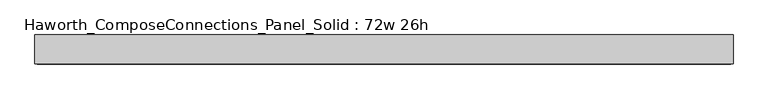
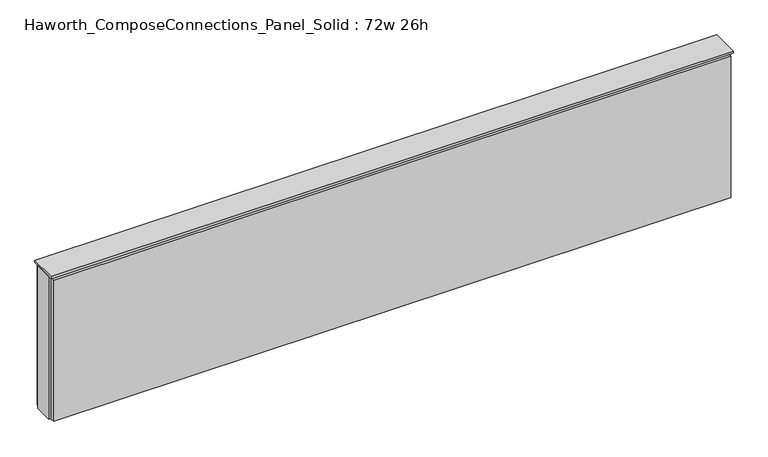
"""IFC4 building model written with IfcOpenShell, lengths in millimetres: furniture geometry, Haworth_ComposeConnections_Panel_Solid : 72w 26h."""

from ifc_helpers import new_model, si_unit, frame, origin, place, context, project, spatial, polyline, outline, extrude, source, transform, mapped, element, save


def haworth_composeconnections_panel_solid_72w_26h_88b36853(model_context):
    return source(origin(), model_context, "Body", "SweptSolid", [
        extrude(outline(polyline([(916.8402902, 25.4), (916.8402902, -25.4), (-911.9597098, -25.4), (-911.9597098, 25.4), (916.8402902, 25.4)])), frame((0.0, 0.0, 234.95), z_axis=(0.0, 0.0, 1.0), x_axis=(1.0, 0.0, 0.0)), (0.0, 0.0, 1.0), 406.4),
        extrude(outline(polyline([(-905.6097098, 25.4), (-905.6097098, 38.1), (910.4902902, 38.1), (910.4902902, 25.4), (-905.6097098, 25.4)])), frame((0.0, 0.0, 234.95), z_axis=(0.0, 0.0, 1.0), x_axis=(1.0, 0.0, 0.0)), (0.0, 0.0, 1.0), 400.05),
        extrude(outline(polyline([(-905.6097098, -38.1), (-905.6097098, -25.4), (910.4902902, -25.4), (910.4902902, -38.1), (-905.6097098, -38.1)])), frame((0.0, 0.0, 234.95), z_axis=(0.0, 0.0, 1.0), x_axis=(1.0, 0.0, 0.0)), (0.0, 0.0, 1.0), 400.05),
        extrude(outline(polyline([(-911.9597098, 38.1), (916.8402902, 38.1), (916.8402902, -38.1), (-911.9597098, -38.1), (-911.9597098, 38.1)])), frame((0.0, 0.0, 641.35), z_axis=(0.0, 0.0, 1.0), x_axis=(1.0, 0.0, 0.0)), (0.0, 0.0, 1.0), 6.35),
    ])


if __name__ == "__main__":
    model = new_model("IFC4")
    model_context = context("Model", 3, world=origin())
    ifc_project = project(units=[si_unit("LENGTHUNIT", "METRE", prefix="MILLI")], contexts=[model_context])
    site = spatial("IfcSite", under=ifc_project)
    building = spatial("IfcBuilding", under=site)
    placement = place(None, origin())
    haworth_composeconnections_panel_solid_72w_26h_shape = haworth_composeconnections_panel_solid_72w_26h_88b36853(model_context)
    element("IfcFurniture", 1, ObjectType="Haworth_ComposeConnections_Panel_Solid : 72w 26h", at=placement, inside=building, context=model_context, shape_type="MappedRepresentation", body=[
        mapped(haworth_composeconnections_panel_solid_72w_26h_shape, transform((0.0, 0.0, 0.0), x_axis=(1.0, 0.0, 0.0), y_axis=(0.0, 1.0, 0.0), z_axis=(0.0, 0.0, 1.0))),
    ])
    save(model, "model.ifc")
